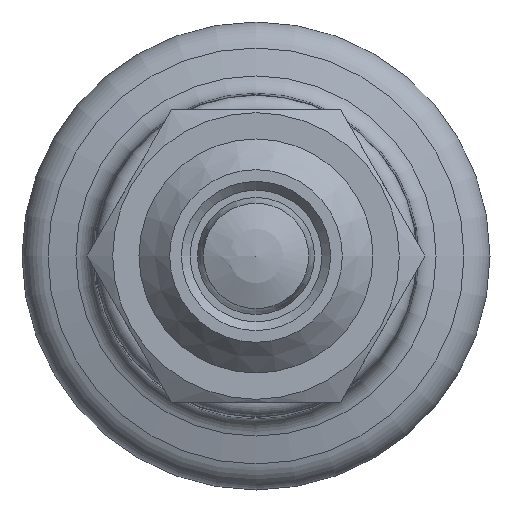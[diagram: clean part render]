
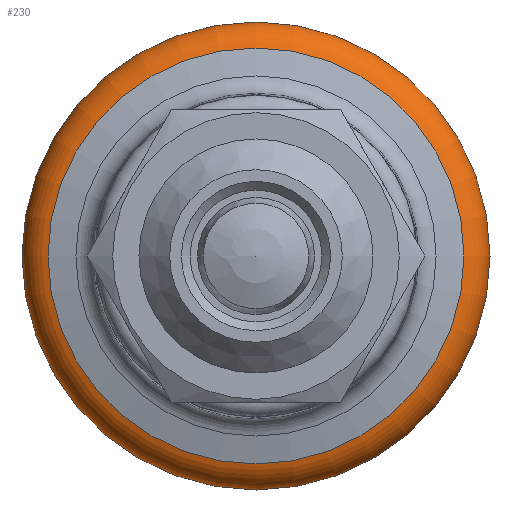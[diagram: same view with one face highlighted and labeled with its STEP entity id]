
A CAD part, front view. The second image highlights one B-rep face of the part: STEP entity #230.
In plain terms, the highlighted toroidal (fillet/blend) face has major radius 6.8 mm and minor radius 1.2 mm.
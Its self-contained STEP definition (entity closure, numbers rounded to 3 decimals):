
#230 = ADVANCED_FACE( '', ( #312, #313 ), #314, .T. );
#312 = FACE_OUTER_BOUND( '', #455, .T. );
#313 = FACE_OUTER_BOUND( '', #456, .T. );
#314 = TOROIDAL_SURFACE( '', #457, 6.8, 1.2 );
#455 = EDGE_LOOP( '', ( #636 ) );
#456 = EDGE_LOOP( '', ( #637 ) );
#457 = AXIS2_PLACEMENT_3D( '', #638, #639, #640 );
#636 = ORIENTED_EDGE( '', *, *, #741, .T. );
#637 = ORIENTED_EDGE( '', *, *, #742, .F. );
#638 = CARTESIAN_POINT( '', ( 0., 36.921, 0. ) );
#639 = DIRECTION( '', ( 0., -1., 0. ) );
#640 = DIRECTION( '', ( 0., 0., -1. ) );
#741 = EDGE_CURVE( '', #818, #818, #819, .T. );
#742 = EDGE_CURVE( '', #820, #820, #821, .T. );
#818 = VERTEX_POINT( '', #1022 );
#819 = CIRCLE( '', #1023, 8. );
#820 = VERTEX_POINT( '', #1024 );
#821 = CIRCLE( '', #1025, 7.111 );
#1022 = CARTESIAN_POINT( '', ( 0., 36.921, -8. ) );
#1023 = AXIS2_PLACEMENT_3D( '', #1104, #1105, #1106 );
#1024 = CARTESIAN_POINT( '', ( 0., 35.762, -7.111 ) );
#1025 = AXIS2_PLACEMENT_3D( '', #1107, #1108, #1109 );
#1104 = CARTESIAN_POINT( '', ( 0., 36.921, 0. ) );
#1105 = DIRECTION( '', ( 0., -1., 0. ) );
#1106 = DIRECTION( '', ( 0., 0., -1. ) );
#1107 = CARTESIAN_POINT( '', ( 0., 35.762, 0. ) );
#1108 = DIRECTION( '', ( 0., -1., 0. ) );
#1109 = DIRECTION( '', ( 0., 0., -1. ) );
